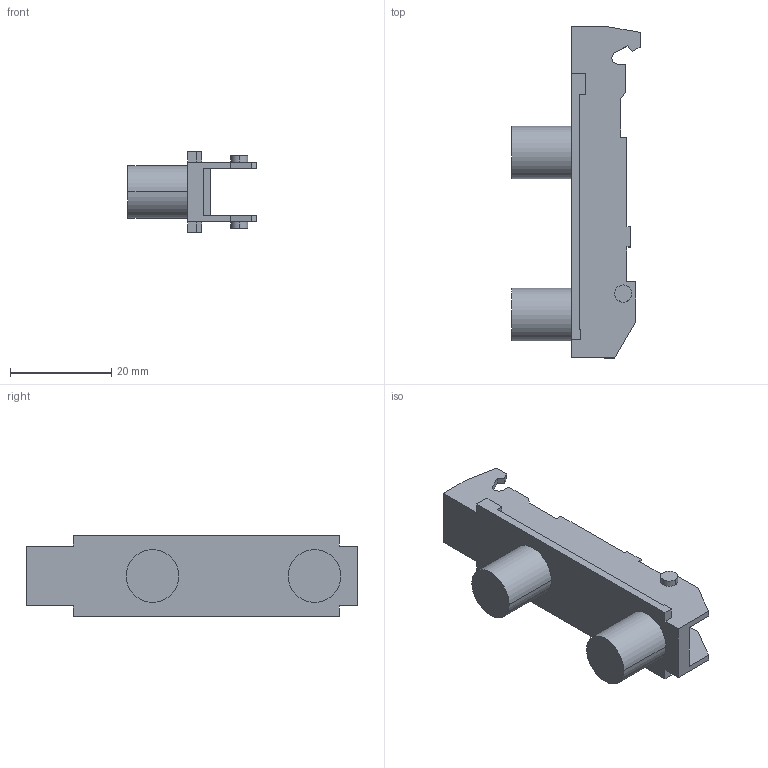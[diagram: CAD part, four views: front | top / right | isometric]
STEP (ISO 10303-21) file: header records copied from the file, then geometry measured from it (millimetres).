
FILE_DESCRIPTION (( 'STEP AP214' ), '1' );
FILE_NAME ('1D_Linearmontageplatte 20_32_10mm Dübel_H03.step', '2010-11-18T10:17:29', ( 'grass' ), ( '' ), 'SwSTEP 2.0', 'SolidWorks 2010', '' );
FILE_SCHEMA (( 'AUTOMOTIVE_DESIGN' ));
Length unit declared in the file: millimetre
Products named in the file (1): 1D_Linearmontageplatte 20_32_10mm Dübel_H03
Bounding box: 25.3 x 65.5 x 16 mm (x, y, z)
Volume: 6041.5 mm3; surface area: 5505.9 mm2
Topology: 1 solids, 1 shells, 84 faces, 228 edges, 152 vertices
Faces by surface type: plane 70, cylinder 14
Entity records: 2654 total; most frequent: CARTESIAN_POINT 465, ORIENTED_EDGE 456, DIRECTION 426, EDGE_CURVE 228, VECTOR 200, LINE 200, VERTEX_POINT 152, AXIS2_PLACEMENT_3D 113
